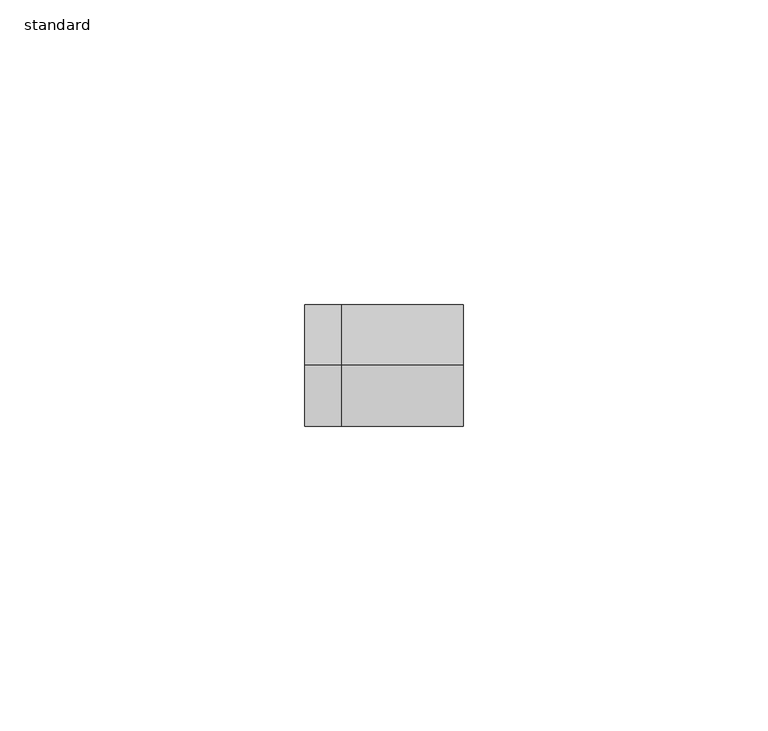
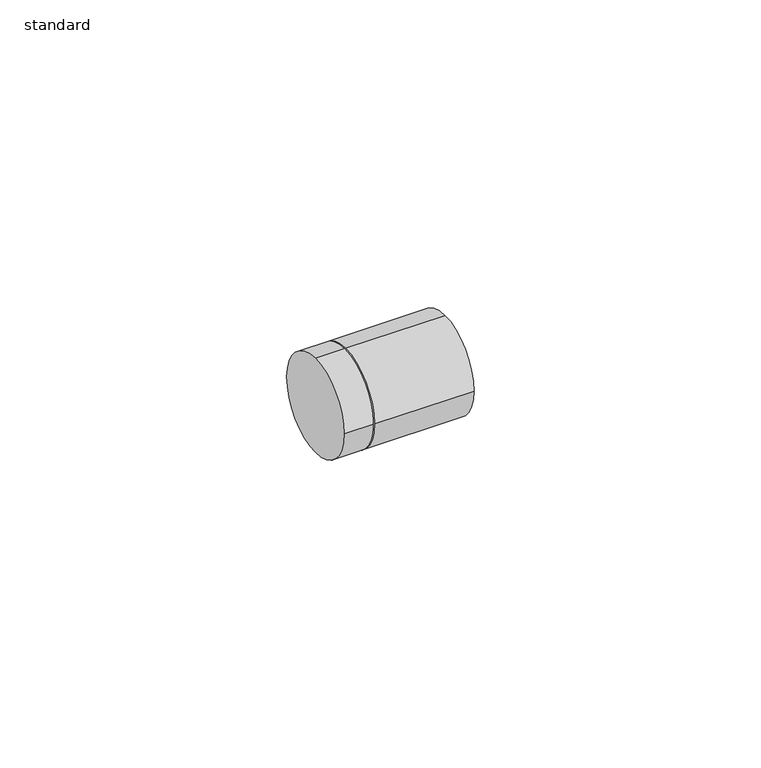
"""IFC4 building model written with IfcOpenShell, lengths in millimetres: pipe fitting geometry, AI_Raccord Canalisation_Piquage generique : standard."""

from ifc_helpers import new_model, si_unit, point, frame, origin, origin_2d, place, context, project, spatial, circle_curve, trimmed, segment, composite_curve, outline, extrude, source, transform, mapped, element, save


def standard_36330a68(model_context):
    return source(origin(), model_context, "Body", "SweptSolid", [
        extrude(outline(composite_curve([segment(trimmed(circle_curve(origin_2d(), 10.0), [point((0.0, 10.0))], [point((10.0, 0.0))], False, "CARTESIAN"), True, "CONTINUOUS"), segment(trimmed(circle_curve(origin_2d(), 10.0), [point((10.0, 0.0))], [point((0.0, -10.0))], False, "CARTESIAN"), True, "CONTINUOUS"), segment(trimmed(circle_curve(origin_2d(), 10.0), [point((0.0, -10.0))], [point((-10.0, 0.0))], False, "CARTESIAN"), True, "CONTINUOUS"), segment(trimmed(circle_curve(origin_2d(), 10.0), [point((-10.0, 0.0))], [point((0.0, 10.0))], False, "CARTESIAN"), True, "CONTINUOUS")], self_intersect=False)), frame((0.0, 0.0, 0.0), z_axis=(1.0, 0.0, 0.0), x_axis=(0.0, 1.0, 0.0)), (0.0, 0.0, 1.0), 20.0),
        extrude(outline(composite_curve([segment(trimmed(circle_curve(origin_2d(), 10.0), [point((0.0, 10.0))], [point((10.0, 0.0))], False, "CARTESIAN"), True, "CONTINUOUS"), segment(trimmed(circle_curve(origin_2d(), 10.0), [point((10.0, 0.0))], [point((0.0, -10.0))], False, "CARTESIAN"), True, "CONTINUOUS"), segment(trimmed(circle_curve(origin_2d(), 10.0), [point((0.0, -10.0))], [point((-10.0, 0.0))], False, "CARTESIAN"), True, "CONTINUOUS"), segment(trimmed(circle_curve(origin_2d(), 10.0), [point((-10.0, 0.0))], [point((0.0, 10.0))], False, "CARTESIAN"), True, "CONTINUOUS")], self_intersect=False)), frame((-6.096, 0.0, 0.0), z_axis=(1.0, 0.0, 0.0), x_axis=(0.0, 1.0, 0.0)), (0.0, 0.0, 1.0), 6.096),
    ])


if __name__ == "__main__":
    model = new_model("IFC4")
    model_context = context("Model", 3, world=origin())
    ifc_project = project(units=[si_unit("LENGTHUNIT", "METRE", prefix="MILLI")], contexts=[model_context])
    site = spatial("IfcSite", under=ifc_project)
    building = spatial("IfcBuilding", under=site)
    placement = place(None, origin())
    standard_shape = standard_36330a68(model_context)
    element("IfcPipeFitting", 1, ObjectType="AI_Raccord Canalisation_Piquage generique : standard", at=placement, inside=building, context=model_context, shape_type="MappedRepresentation", body=[
        mapped(standard_shape, transform((0.0, 0.0, 0.0), x_axis=(1.0, 0.0, 0.0), y_axis=(0.0, 1.0, 0.0), z_axis=(0.0, 0.0, 1.0))),
    ])
    save(model, "model.ifc")
